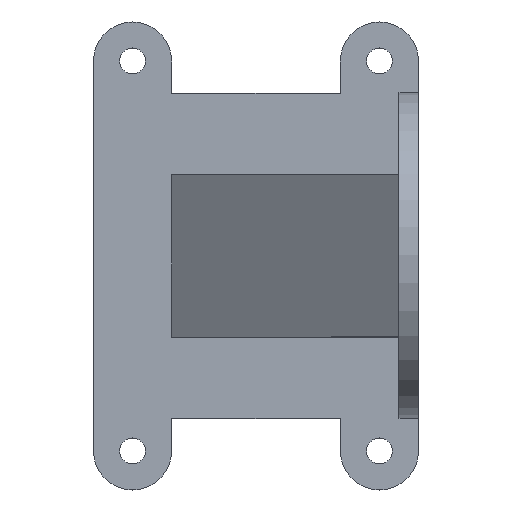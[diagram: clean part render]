
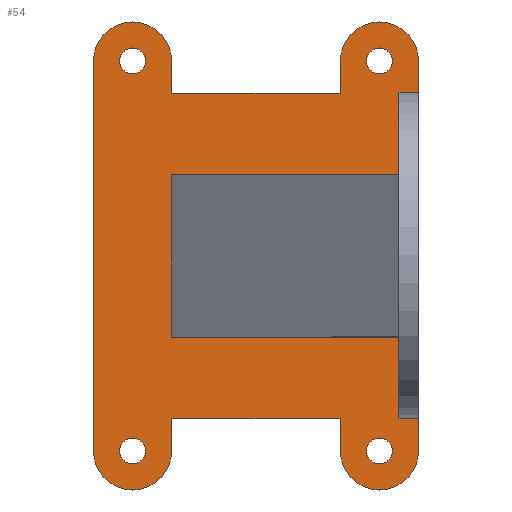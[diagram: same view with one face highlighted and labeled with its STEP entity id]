
A CAD part, top view. The second image highlights one B-rep face of the part: STEP entity #54.
In plain terms, the highlighted planar face has unit normal (0, 0, 1).
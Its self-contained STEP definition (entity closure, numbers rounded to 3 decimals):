
#54=ADVANCED_FACE('',(#106,#108,#110,#112,#114),#116,.F.);
#106=FACE_BOUND('',#107,.T.);
#107=EDGE_LOOP('',(#390,#391,#392,#393,#394,#395,#396,#397,#398,#399,#400,#401,#402,
#403,#404,#405,#406,#407,#408,#409));
#108=FACE_BOUND('',#109,.T.);
#109=EDGE_LOOP('',(#410));
#110=FACE_BOUND('',#111,.T.);
#111=EDGE_LOOP('',(#411));
#112=FACE_BOUND('',#113,.T.);
#113=EDGE_LOOP('',(#412));
#114=FACE_BOUND('',#115,.T.);
#115=EDGE_LOOP('',(#413));
#116=PLANE('',#117);
#117=AXIS2_PLACEMENT_3D('',#118,#119,#120);
#118=CARTESIAN_POINT('',(0.,0.,-110.));
#119=DIRECTION('',(0.,0.,-1.));
#120=DIRECTION('',(-1.,0.,0.));
#390=ORIENTED_EDGE('',*,*,#548,.F.);
#391=ORIENTED_EDGE('',*,*,#549,.F.);
#392=ORIENTED_EDGE('',*,*,#539,.T.);
#393=ORIENTED_EDGE('',*,*,#550,.T.);
#394=ORIENTED_EDGE('',*,*,#551,.F.);
#395=ORIENTED_EDGE('',*,*,#552,.F.);
#396=ORIENTED_EDGE('',*,*,#553,.F.);
#397=ORIENTED_EDGE('',*,*,#554,.F.);
#398=ORIENTED_EDGE('',*,*,#555,.F.);
#399=ORIENTED_EDGE('',*,*,#556,.F.);
#400=ORIENTED_EDGE('',*,*,#557,.F.);
#401=ORIENTED_EDGE('',*,*,#558,.T.);
#402=ORIENTED_EDGE('',*,*,#559,.T.);
#403=ORIENTED_EDGE('',*,*,#560,.F.);
#404=ORIENTED_EDGE('',*,*,#561,.T.);
#405=ORIENTED_EDGE('',*,*,#562,.T.);
#406=ORIENTED_EDGE('',*,*,#563,.T.);
#407=ORIENTED_EDGE('',*,*,#564,.T.);
#408=ORIENTED_EDGE('',*,*,#535,.T.);
#409=ORIENTED_EDGE('',*,*,#565,.F.);
#410=ORIENTED_EDGE('',*,*,#566,.F.);
#411=ORIENTED_EDGE('',*,*,#567,.F.);
#412=ORIENTED_EDGE('',*,*,#568,.T.);
#413=ORIENTED_EDGE('',*,*,#569,.T.);
#535=EDGE_CURVE('',#617,#615,#618,.F.);
#539=EDGE_CURVE('',#625,#623,#626,.F.);
#548=EDGE_CURVE('',#642,#643,#644,.F.);
#549=EDGE_CURVE('',#625,#642,#645,.F.);
#550=EDGE_CURVE('',#623,#646,#647,.F.);
#551=EDGE_CURVE('',#648,#646,#649,.T.);
#552=EDGE_CURVE('',#650,#648,#651,.T.);
#553=EDGE_CURVE('',#652,#650,#653,.T.);
#554=EDGE_CURVE('',#654,#652,#655,.T.);
#555=EDGE_CURVE('',#656,#654,#657,.T.);
#556=EDGE_CURVE('',#658,#656,#659,.T.);
#557=EDGE_CURVE('',#660,#658,#661,.T.);
#558=EDGE_CURVE('',#660,#662,#663,.T.);
#559=EDGE_CURVE('',#662,#664,#665,.T.);
#560=EDGE_CURVE('',#666,#664,#667,.T.);
#561=EDGE_CURVE('',#666,#668,#669,.T.);
#562=EDGE_CURVE('',#668,#670,#671,.T.);
#563=EDGE_CURVE('',#670,#672,#673,.T.);
#564=EDGE_CURVE('',#672,#617,#674,.T.);
#565=EDGE_CURVE('',#643,#615,#675,.F.);
#566=EDGE_CURVE('',#676,#676,#677,.T.);
#567=EDGE_CURVE('',#678,#678,#679,.T.);
#568=EDGE_CURVE('',#680,#680,#681,.T.);
#569=EDGE_CURVE('',#682,#682,#683,.T.);
#615=VERTEX_POINT('',#756);
#617=VERTEX_POINT('',#760);
#618=LINE('',#761,#762);
#623=VERTEX_POINT('',#773);
#625=VERTEX_POINT('',#777);
#626=LINE('',#778,#779);
#642=VERTEX_POINT('',#819);
#643=VERTEX_POINT('',#820);
#644=LINE('',#821,#822);
#645=LINE('',#824,#825);
#646=VERTEX_POINT('',#827);
#647=LINE('',#828,#829);
#648=VERTEX_POINT('',#831);
#649=LINE('',#832,#833);
#650=VERTEX_POINT('',#835);
#651=CIRCLE('',#836,12.);
#652=VERTEX_POINT('',#840);
#653=LINE('',#841,#842);
#654=VERTEX_POINT('',#844);
#655=LINE('',#845,#846);
#656=VERTEX_POINT('',#848);
#657=LINE('',#849,#850);
#658=VERTEX_POINT('',#852);
#659=CIRCLE('',#853,12.);
#660=VERTEX_POINT('',#857);
#661=LINE('',#858,#859);
#662=VERTEX_POINT('',#861);
#663=CIRCLE('',#862,12.);
#664=VERTEX_POINT('',#866);
#665=LINE('',#867,#868);
#666=VERTEX_POINT('',#870);
#667=LINE('',#871,#872);
#668=VERTEX_POINT('',#874);
#669=LINE('',#875,#876);
#670=VERTEX_POINT('',#878);
#671=CIRCLE('',#879,12.);
#672=VERTEX_POINT('',#883);
#673=LINE('',#884,#885);
#674=LINE('',#887,#888);
#675=LINE('',#890,#891);
#676=VERTEX_POINT('',#893);
#677=CIRCLE('',#894,4.);
#678=VERTEX_POINT('',#898);
#679=CIRCLE('',#899,4.);
#680=VERTEX_POINT('',#903);
#681=CIRCLE('',#904,4.);
#682=VERTEX_POINT('',#908);
#683=CIRCLE('',#909,4.);
#756=CARTESIAN_POINT('',(120.,-25.,-110.));
#760=CARTESIAN_POINT('',(120.,-50.,-110.));
#761=CARTESIAN_POINT('',(120.,-25.,-110.));
#762=VECTOR('',#763,1.);
#763=DIRECTION('',(0.,-1.,0.));
#773=CARTESIAN_POINT('',(120.,50.,-110.));
#777=CARTESIAN_POINT('',(120.,25.,-110.));
#778=CARTESIAN_POINT('',(120.,50.,-110.));
#779=VECTOR('',#780,1.);
#780=DIRECTION('',(0.,-1.,0.));
#819=CARTESIAN_POINT('',(50.,25.,-110.));
#820=CARTESIAN_POINT('',(50.,-25.,-110.));
#821=CARTESIAN_POINT('',(50.,-25.,-110.));
#822=VECTOR('',#823,1.);
#823=DIRECTION('',(0.,1.,0.));
#824=CARTESIAN_POINT('',(50.,25.,-110.));
#825=VECTOR('',#826,1.);
#826=DIRECTION('',(1.,0.,0.));
#827=CARTESIAN_POINT('',(126.,50.,-110.));
#828=CARTESIAN_POINT('',(126.,50.,-110.));
#829=VECTOR('',#830,1.);
#830=DIRECTION('',(-1.,0.,0.));
#831=CARTESIAN_POINT('',(126.,60.,-110.));
#832=CARTESIAN_POINT('',(126.,60.,-110.));
#833=VECTOR('',#834,1.);
#834=DIRECTION('',(0.,-1.,0.));
#835=CARTESIAN_POINT('',(102.,60.,-110.));
#836=AXIS2_PLACEMENT_3D('',#837,#838,#839);
#837=CARTESIAN_POINT('',(114.,60.,-110.));
#838=DIRECTION('',(0.,0.,-1.));
#839=DIRECTION('',(-1.,0.,0.));
#840=CARTESIAN_POINT('',(102.,50.,-110.));
#841=CARTESIAN_POINT('',(102.,50.,-110.));
#842=VECTOR('',#843,1.);
#843=DIRECTION('',(0.,1.,0.));
#844=CARTESIAN_POINT('',(50.,50.,-110.));
#845=CARTESIAN_POINT('',(50.,50.,-110.));
#846=VECTOR('',#847,1.);
#847=DIRECTION('',(1.,0.,0.));
#848=CARTESIAN_POINT('',(50.,60.,-110.));
#849=CARTESIAN_POINT('',(50.,60.,-110.));
#850=VECTOR('',#851,1.);
#851=DIRECTION('',(0.,-1.,0.));
#852=CARTESIAN_POINT('',(26.,60.,-110.));
#853=AXIS2_PLACEMENT_3D('',#854,#855,#856);
#854=CARTESIAN_POINT('',(38.,60.,-110.));
#855=DIRECTION('',(0.,0.,-1.));
#856=DIRECTION('',(-1.,0.,0.));
#857=CARTESIAN_POINT('',(26.,-60.,-110.));
#858=CARTESIAN_POINT('',(26.,-60.,-110.));
#859=VECTOR('',#860,1.);
#860=DIRECTION('',(0.,1.,0.));
#861=CARTESIAN_POINT('',(50.,-60.,-110.));
#862=AXIS2_PLACEMENT_3D('',#863,#864,#865);
#863=CARTESIAN_POINT('',(38.,-60.,-110.));
#864=DIRECTION('',(0.,0.,1.));
#865=DIRECTION('',(-1.,0.,0.));
#866=CARTESIAN_POINT('',(50.,-50.,-110.));
#867=CARTESIAN_POINT('',(50.,-60.,-110.));
#868=VECTOR('',#869,1.);
#869=DIRECTION('',(0.,1.,0.));
#870=CARTESIAN_POINT('',(102.,-50.,-110.));
#871=CARTESIAN_POINT('',(102.,-50.,-110.));
#872=VECTOR('',#873,1.);
#873=DIRECTION('',(-1.,0.,0.));
#874=CARTESIAN_POINT('',(102.,-60.,-110.));
#875=CARTESIAN_POINT('',(102.,-50.,-110.));
#876=VECTOR('',#877,1.);
#877=DIRECTION('',(0.,-1.,0.));
#878=CARTESIAN_POINT('',(126.,-60.,-110.));
#879=AXIS2_PLACEMENT_3D('',#880,#881,#882);
#880=CARTESIAN_POINT('',(114.,-60.,-110.));
#881=DIRECTION('',(0.,0.,1.));
#882=DIRECTION('',(-1.,0.,0.));
#883=CARTESIAN_POINT('',(126.,-50.,-110.));
#884=CARTESIAN_POINT('',(126.,-60.,-110.));
#885=VECTOR('',#886,1.);
#886=DIRECTION('',(0.,1.,0.));
#887=CARTESIAN_POINT('',(126.,-50.,-110.));
#888=VECTOR('',#889,1.);
#889=DIRECTION('',(-1.,0.,0.));
#890=CARTESIAN_POINT('',(120.,-25.,-110.));
#891=VECTOR('',#892,1.);
#892=DIRECTION('',(-1.,0.,0.));
#893=CARTESIAN_POINT('',(34.,-60.,-110.));
#894=AXIS2_PLACEMENT_3D('',#895,#896,#897);
#895=CARTESIAN_POINT('',(38.,-60.,-110.));
#896=DIRECTION('',(0.,0.,1.));
#897=DIRECTION('',(-1.,0.,0.));
#898=CARTESIAN_POINT('',(110.,-60.,-110.));
#899=AXIS2_PLACEMENT_3D('',#900,#901,#902);
#900=CARTESIAN_POINT('',(114.,-60.,-110.));
#901=DIRECTION('',(0.,0.,1.));
#902=DIRECTION('',(-1.,0.,0.));
#903=CARTESIAN_POINT('',(34.,60.,-110.));
#904=AXIS2_PLACEMENT_3D('',#905,#906,#907);
#905=CARTESIAN_POINT('',(38.,60.,-110.));
#906=DIRECTION('',(0.,0.,-1.));
#907=DIRECTION('',(-1.,0.,0.));
#908=CARTESIAN_POINT('',(110.,60.,-110.));
#909=AXIS2_PLACEMENT_3D('',#910,#911,#912);
#910=CARTESIAN_POINT('',(114.,60.,-110.));
#911=DIRECTION('',(0.,0.,-1.));
#912=DIRECTION('',(-1.,0.,0.));
